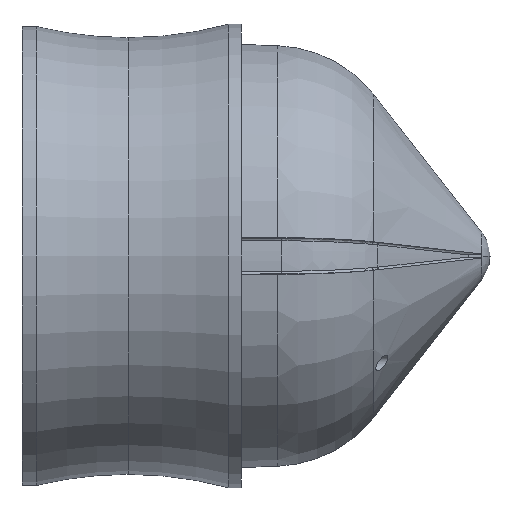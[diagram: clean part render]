
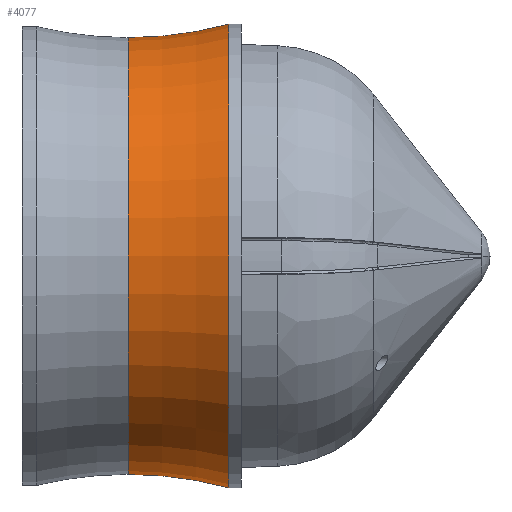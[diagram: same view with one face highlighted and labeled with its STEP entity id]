
A CAD part, left-side view. The second image highlights one B-rep face of the part: STEP entity #4077.
In plain terms, the highlighted toroidal (fillet/blend) face has major radius 30.069 mm and minor radius 19.202 mm.
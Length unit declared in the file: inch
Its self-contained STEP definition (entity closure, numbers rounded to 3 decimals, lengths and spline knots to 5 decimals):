
#525 = EDGE_CURVE ( 'NONE', #2568, #14702, #13184, .T. ) ;
#1063 = DIRECTION ( 'NONE',  ( 0., 0., 1. ) ) ;
#1323 = AXIS2_PLACEMENT_3D ( 'NONE', #13628, #11172, #1063 ) ;
#1398 = CARTESIAN_POINT ( 'NONE',  ( 0., 0.067, -0.454 ) ) ;
#1622 = EDGE_CURVE ( 'NONE', #3481, #2568, #7604, .T. ) ;
#1718 = AXIS2_PLACEMENT_3D ( 'NONE', #12968, #7893, #5413 ) ;
#2445 = ORIENTED_EDGE ( 'NONE', *, *, #525, .F. ) ;
#2568 = VERTEX_POINT ( 'NONE', #12931 ) ;
#2733 = TOROIDAL_SURFACE ( 'NONE', #1323, 1.18382, 0.756 ) ;
#2784 = CARTESIAN_POINT ( 'NONE',  ( 0., 0.067, 0.454 ) ) ;
#3186 = ORIENTED_EDGE ( 'NONE', *, *, #3326, .T. ) ;
#3326 = EDGE_CURVE ( 'NONE', #3481, #9293, #6092, .T. ) ;
#3433 = CIRCLE ( 'NONE', #6873, 0.454 ) ;
#3481 = VERTEX_POINT ( 'NONE', #15389 ) ;
#3735 = DIRECTION ( 'NONE',  ( 0., 0., 1. ) ) ;
#4077 = ADVANCED_FACE ( 'NONE', ( #10652 ), #2733, .F. ) ;
#4804 = DIRECTION ( 'NONE',  ( 0., 0., -1. ) ) ;
#5413 = DIRECTION ( 'NONE',  ( 0., 0., 1. ) ) ;
#5947 = ORIENTED_EDGE ( 'NONE', *, *, #7040, .T. ) ;
#6092 = CIRCLE ( 'NONE', #8010, 0.756 ) ;
#6873 = AXIS2_PLACEMENT_3D ( 'NONE', #7607, #13880, #8673 ) ;
#7040 = EDGE_CURVE ( 'NONE', #9293, #14702, #3433, .T. ) ;
#7084 = ORIENTED_EDGE ( 'NONE', *, *, #1622, .F. ) ;
#7604 = CIRCLE ( 'NONE', #1718, 0.42782 ) ;
#7607 = CARTESIAN_POINT ( 'NONE',  ( 0., 0.067, 0. ) ) ;
#7893 = DIRECTION ( 'NONE',  ( 0., 1., 0. ) ) ;
#8010 = AXIS2_PLACEMENT_3D ( 'NONE', #9802, #14798, #4804 ) ;
#8011 = EDGE_LOOP ( 'NONE', ( #7084, #3186, #5947, #2445 ) ) ;
#8673 = DIRECTION ( 'NONE',  ( 0., 0., 1. ) ) ;
#9293 = VERTEX_POINT ( 'NONE', #1398 ) ;
#9802 = CARTESIAN_POINT ( 'NONE',  ( 0., 0.26424, -1.18382 ) ) ;
#10147 = CARTESIAN_POINT ( 'NONE',  ( 0., 0.26424, 1.18382 ) ) ;
#10652 = FACE_OUTER_BOUND ( 'NONE', #8011, .T. ) ;
#10834 = AXIS2_PLACEMENT_3D ( 'NONE', #10147, #15187, #3735 ) ;
#11172 = DIRECTION ( 'NONE',  ( 0., 1., 0. ) ) ;
#12931 = CARTESIAN_POINT ( 'NONE',  ( 0., 0.26424, 0.42782 ) ) ;
#12968 = CARTESIAN_POINT ( 'NONE',  ( 0., 0.26424, 0. ) ) ;
#13184 = CIRCLE ( 'NONE', #10834, 0.756 ) ;
#13628 = CARTESIAN_POINT ( 'NONE',  ( 0., 0.26424, 0. ) ) ;
#13880 = DIRECTION ( 'NONE',  ( 0., 1., 0. ) ) ;
#14702 = VERTEX_POINT ( 'NONE', #2784 ) ;
#14798 = DIRECTION ( 'NONE',  ( 1., 0., 0. ) ) ;
#15187 = DIRECTION ( 'NONE',  ( -1., 0., 0. ) ) ;
#15389 = CARTESIAN_POINT ( 'NONE',  ( 0., 0.26424, -0.42782 ) ) ;
